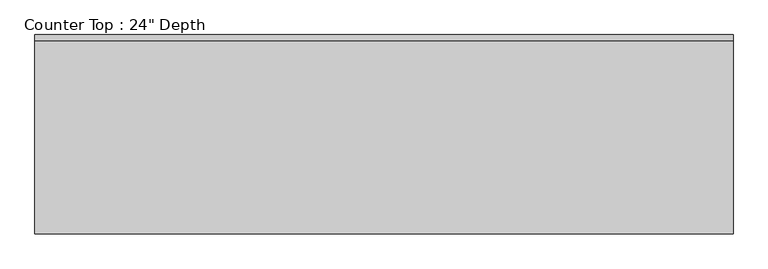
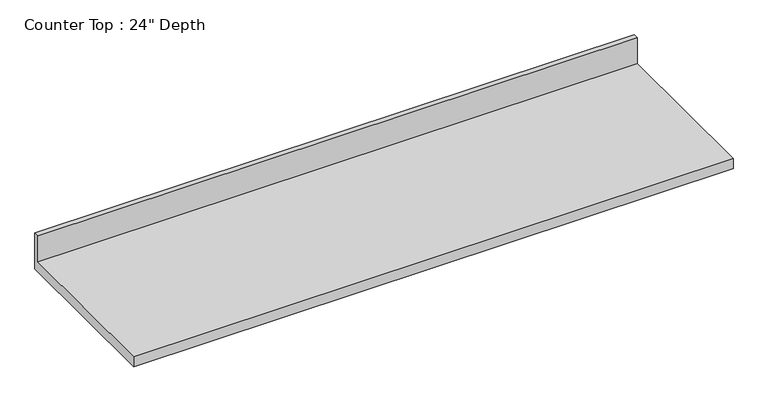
"""IFC4 building model written with IfcOpenShell, lengths in millimetres: furniture geometry."""

from ifc_helpers import new_model, si_unit, frame, origin, place, context, project, spatial, polyline, outline, extrude, source, transform, mapped, element, save


def furniture_6bf0da8d(model_context):
    return source(origin(), model_context, "Body", "SweptSolid", [
        extrude(outline(polyline([(0.0, 1016.0), (0.0, 876.3), (-635.0, 876.3), (-635.0, 914.4), (-19.05, 914.4), (-19.05, 1016.0), (0.0, 1016.0)])), frame((-1200.4622951, 0.0, 0.0), z_axis=(1.0, 0.0, 0.0), x_axis=(0.0, 1.0, 0.0)), (0.0, 0.0, 1.0), 2224.0875),
    ])


if __name__ == "__main__":
    model = new_model("IFC4")
    model_context = context("Model", 3, world=origin())
    ifc_project = project(units=[si_unit("LENGTHUNIT", "METRE", prefix="MILLI")], contexts=[model_context])
    site = spatial("IfcSite", under=ifc_project)
    building = spatial("IfcBuilding", under=site)
    placement = place(None, origin())
    furniture_shape = furniture_6bf0da8d(model_context)
    element("IfcFurniture", 1, ObjectType="Counter Top : 24\" Depth", at=placement, inside=building, context=model_context, shape_type="MappedRepresentation", body=[
        mapped(furniture_shape, transform((0.0, 0.0, 0.0), x_axis=(1.0, 0.0, 0.0), y_axis=(0.0, 1.0, 0.0), z_axis=(0.0, 0.0, 1.0))),
    ])
    save(model, "model.ifc")
